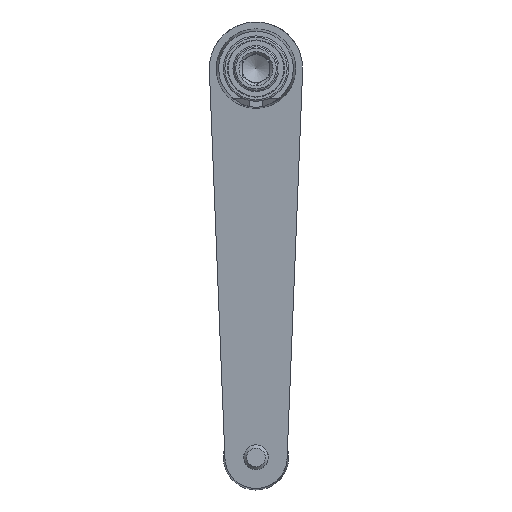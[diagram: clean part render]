
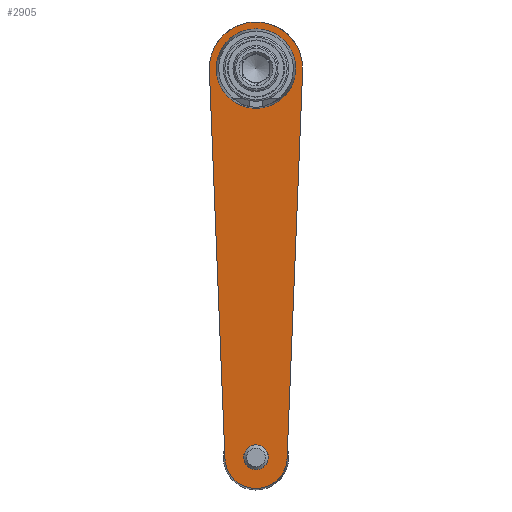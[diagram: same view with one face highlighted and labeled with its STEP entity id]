
A CAD part, left-side view. The second image highlights one B-rep face of the part: STEP entity #2905.
In plain terms, the highlighted planar face has unit normal (-0.997, 0, -0.08) as drawn and (0.997, 0.08, 0) by its records, which use the part's own axes.
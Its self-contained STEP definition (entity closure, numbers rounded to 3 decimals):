
#206=PLANE('',#3664);
#338=LINE('',#7904,#486);
#342=LINE('',#7916,#490);
#486=VECTOR('',#4417,1000.);
#490=VECTOR('',#4429,1000.);
#1265=ORIENTED_EDGE('',*,*,#1747,.F.);
#1266=ORIENTED_EDGE('',*,*,#1748,.T.);
#1267=ORIENTED_EDGE('',*,*,#1734,.F.);
#1268=ORIENTED_EDGE('',*,*,#1743,.F.);
#1269=ORIENTED_EDGE('',*,*,#1740,.F.);
#1270=ORIENTED_EDGE('',*,*,#1737,.F.);
#1734=EDGE_CURVE('',#2030,#2032,#2099,.F.);
#1737=EDGE_CURVE('',#2032,#2034,#338,.T.);
#1740=EDGE_CURVE('',#2034,#2036,#2100,.F.);
#1743=EDGE_CURVE('',#2036,#2030,#342,.T.);
#1747=EDGE_CURVE('',#2040,#2040,#2101,.T.);
#1748=EDGE_CURVE('',#2041,#2041,#2102,.F.);
#2030=VERTEX_POINT('',#7896);
#2032=VERTEX_POINT('',#7899);
#2034=VERTEX_POINT('',#7905);
#2036=VERTEX_POINT('',#7911);
#2040=VERTEX_POINT('',#7925);
#2041=VERTEX_POINT('',#7927);
#2099=ELLIPSE('',#3654,15.048,15.);
#2100=ELLIPSE('',#3658,10.032,10.);
#2101=ELLIPSE('',#3665,4.013,4.);
#2102=ELLIPSE('',#3666,12.791,12.75);
#2340=EDGE_LOOP('',(#1265));
#2341=EDGE_LOOP('',(#1266));
#2342=EDGE_LOOP('',(#1267,#1268,#1269,#1270));
#2640=FACE_BOUND('',#2340,.T.);
#2641=FACE_BOUND('',#2341,.T.);
#2642=FACE_BOUND('',#2342,.T.);
#2905=ADVANCED_FACE('',(#2640,#2641,#2642),#206,.T.);
#3654=AXIS2_PLACEMENT_3D('',#7898,#4410,#4411);
#3658=AXIS2_PLACEMENT_3D('',#7910,#4422,#4423);
#3664=AXIS2_PLACEMENT_3D('',#7923,#4437,#4438);
#3665=AXIS2_PLACEMENT_3D('',#7924,#4439,#4440);
#3666=AXIS2_PLACEMENT_3D('',#7926,#4441,#4442);
#4410=DIRECTION('',(0.997,0.08,0.));
#4411=DIRECTION('',(-0.08,0.997,0.));
#4417=DIRECTION('',(-0.08,0.996,-0.04));
#4422=DIRECTION('',(0.997,0.08,0.));
#4423=DIRECTION('',(-0.08,0.997,0.));
#4429=DIRECTION('',(0.08,-0.996,-0.04));
#4437=DIRECTION('',(0.997,0.08,0.));
#4438=DIRECTION('',(-0.08,0.997,0.));
#4439=DIRECTION('',(0.997,0.08,0.));
#4440=DIRECTION('',(-0.08,0.997,0.));
#4441=DIRECTION('',(0.997,0.08,0.));
#4442=DIRECTION('',(0.08,-0.997,0.));
#7896=CARTESIAN_POINT('',(25.752,0.6,-14.988));
#7898=CARTESIAN_POINT('',(25.8,0.,0.));
#7899=CARTESIAN_POINT('',(25.752,0.6,14.988));
#7904=CARTESIAN_POINT('',(25.76,0.501,14.992));
#7905=CARTESIAN_POINT('',(15.768,125.4,9.992));
#7910=CARTESIAN_POINT('',(15.8,125.,0.));
#7911=CARTESIAN_POINT('',(15.768,125.4,-9.992));
#7916=CARTESIAN_POINT('',(15.839,124.509,-10.028));
#7923=CARTESIAN_POINT('',(15.,135.,50.));
#7924=CARTESIAN_POINT('',(15.8,125.,0.));
#7925=CARTESIAN_POINT('',(15.48,129.,0.));
#7926=CARTESIAN_POINT('',(25.8,0.,0.));
#7927=CARTESIAN_POINT('',(26.82,-12.75,0.));
